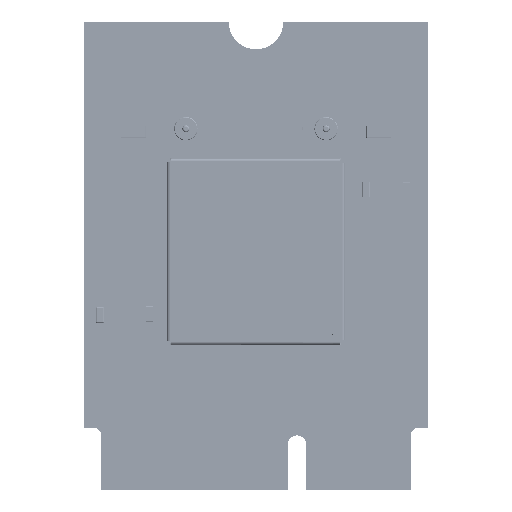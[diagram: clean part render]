
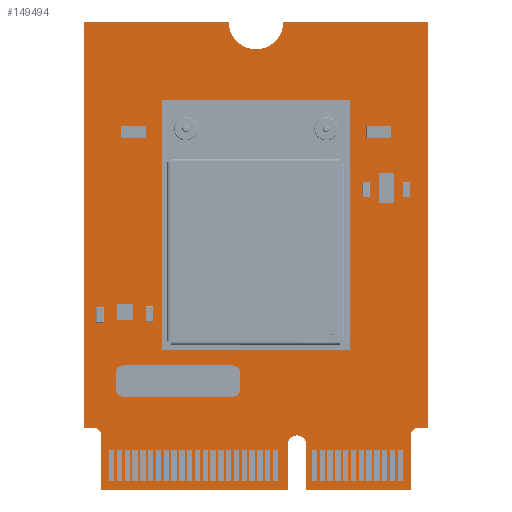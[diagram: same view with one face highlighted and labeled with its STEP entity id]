
A CAD part, top view. The second image highlights one B-rep face of the part: STEP entity #149494.
In plain terms, the highlighted planar face has unit normal (0, 0, 1).
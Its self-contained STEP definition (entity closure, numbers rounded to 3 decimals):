
#2253 = ORIENTED_EDGE ( 'NONE', *, *, #456660, .F. ) ;
#3137 = VECTOR ( 'NONE', #45021, 1000. ) ;
#10824 = DIRECTION ( 'NONE',  ( 0., 0., 1. ) ) ;
#11534 = AXIS2_PLACEMENT_3D ( 'NONE', #647484, #326962, #592351 ) ;
#11606 = CARTESIAN_POINT ( 'NONE',  ( 2.026, -16.982, 0. ) ) ;
#14611 = ORIENTED_EDGE ( 'NONE', *, *, #371616, .F. ) ;
#26696 = CARTESIAN_POINT ( 'NONE',  ( 2.026, -14.082, 0. ) ) ;
#29396 = CARTESIAN_POINT ( 'NONE',  ( 0.001, 13.017, 0. ) ) ;
#31297 = VECTOR ( 'NONE', #657442, 1000. ) ;
#45021 = DIRECTION ( 'NONE',  ( -1., 0., 0. ) ) ;
#46559 = ORIENTED_EDGE ( 'NONE', *, *, #635127, .F. ) ;
#47543 = CARTESIAN_POINT ( 'NONE',  ( -9.925, -13.482, 0. ) ) ;
#53276 = DIRECTION ( 'NONE',  ( 1., 0., 0. ) ) ;
#55625 = VECTOR ( 'NONE', #192534, 1000. ) ;
#56593 = DIRECTION ( 'NONE',  ( -1., 0.001, 0. ) ) ;
#59628 = VECTOR ( 'NONE', #448441, 1000. ) ;
#59637 = DIRECTION ( 'NONE',  ( 0., -1., 0. ) ) ;
#59782 = DIRECTION ( 'NONE',  ( 0., 1., 0. ) ) ;
#61423 = ORIENTED_EDGE ( 'NONE', *, *, #170721, .F. ) ;
#69673 = CARTESIAN_POINT ( 'NONE',  ( -9.925, -16.982, 0. ) ) ;
#73044 = LINE ( 'NONE', #69673, #59628 ) ;
#78320 = DIRECTION ( 'NONE',  ( 0., 0., -1. ) ) ;
#78956 = CARTESIAN_POINT ( 'NONE',  ( 9.925, -13.482, 0. ) ) ;
#91531 = CARTESIAN_POINT ( 'NONE',  ( -9.925, -16.982, 0. ) ) ;
#91885 = VERTEX_POINT ( 'NONE', #96214 ) ;
#96214 = CARTESIAN_POINT ( 'NONE',  ( 9.925, -16.982, 0. ) ) ;
#102514 = VERTEX_POINT ( 'NONE', #225459 ) ;
#105026 = DIRECTION ( 'NONE',  ( 0., 0., 1. ) ) ;
#116232 = DIRECTION ( 'NONE',  ( -1., 0., 0. ) ) ;
#117134 = AXIS2_PLACEMENT_3D ( 'NONE', #29396, #105026, #56593 ) ;
#122032 = VERTEX_POINT ( 'NONE', #47543 ) ;
#122594 = VERTEX_POINT ( 'NONE', #544854 ) ;
#134583 = DIRECTION ( 'NONE',  ( -1., 0., 0. ) ) ;
#145250 = EDGE_CURVE ( 'NONE', #184876, #491569, #290041, .T. ) ;
#148529 = CARTESIAN_POINT ( 'NONE',  ( 1.751, 13.018, 0. ) ) ;
#149494 = ADVANCED_FACE ( 'NONE', ( #278333 ), #384969, .F. ) ;
#153191 = CARTESIAN_POINT ( 'NONE',  ( 2.026, -14.082, 0. ) ) ;
#156328 = CARTESIAN_POINT ( 'NONE',  ( 10.999, 13.018, 0. ) ) ;
#157785 = VECTOR ( 'NONE', #242434, 1000. ) ;
#163069 = LINE ( 'NONE', #156328, #284534 ) ;
#170721 = EDGE_CURVE ( 'NONE', #555314, #444026, #189866, .T. ) ;
#181886 = EDGE_CURVE ( 'NONE', #431238, #184876, #163069, .T. ) ;
#184876 = VERTEX_POINT ( 'NONE', #443761 ) ;
#189866 = LINE ( 'NONE', #399943, #452030 ) ;
#190685 = CARTESIAN_POINT ( 'NONE',  ( -10.999, -12.982, 0. ) ) ;
#191933 = AXIS2_PLACEMENT_3D ( 'NONE', #340223, #395241, #347008 ) ;
#192534 = DIRECTION ( 'NONE',  ( 0., -1., 0. ) ) ;
#203534 = CARTESIAN_POINT ( 'NONE',  ( 10.999, -12.982, 0. ) ) ;
#215190 = CARTESIAN_POINT ( 'NONE',  ( 10.999, 13.018, 0. ) ) ;
#223192 = DIRECTION ( 'NONE',  ( 0., -1., 0. ) ) ;
#223389 = EDGE_CURVE ( 'NONE', #627448, #315873, #289673, .T. ) ;
#225459 = CARTESIAN_POINT ( 'NONE',  ( -1.749, 13.018, 0. ) ) ;
#236090 = CARTESIAN_POINT ( 'NONE',  ( 3.225, -14.082, 0. ) ) ;
#242434 = DIRECTION ( 'NONE',  ( 0., 1., 0. ) ) ;
#246494 = VERTEX_POINT ( 'NONE', #153191 ) ;
#254455 = VECTOR ( 'NONE', #134583, 1000. ) ;
#264558 = VECTOR ( 'NONE', #53276, 1000. ) ;
#266467 = ORIENTED_EDGE ( 'NONE', *, *, #657923, .F. ) ;
#272732 = CARTESIAN_POINT ( 'NONE',  ( 10.425, -13.482, 0. ) ) ;
#278333 = FACE_OUTER_BOUND ( 'NONE', #540475, .T. ) ;
#278865 = VERTEX_POINT ( 'NONE', #295742 ) ;
#282957 = VERTEX_POINT ( 'NONE', #442285 ) ;
#283496 = ORIENTED_EDGE ( 'NONE', *, *, #223389, .F. ) ;
#284534 = VECTOR ( 'NONE', #59637, 1000. ) ;
#289673 = LINE ( 'NONE', #444695, #254455 ) ;
#290041 = LINE ( 'NONE', #203534, #3137 ) ;
#293169 = CIRCLE ( 'NONE', #117134, 1.75 ) ;
#295742 = CARTESIAN_POINT ( 'NONE',  ( 1.751, 13.018, 0. ) ) ;
#296174 = VERTEX_POINT ( 'NONE', #561234 ) ;
#309531 = EDGE_CURVE ( 'NONE', #282957, #91885, #502750, .T. ) ;
#315873 = VERTEX_POINT ( 'NONE', #91531 ) ;
#326962 = DIRECTION ( 'NONE',  ( 0., 0., 1. ) ) ;
#336843 = CARTESIAN_POINT ( 'NONE',  ( -10.999, -12.982, 0. ) ) ;
#340223 = CARTESIAN_POINT ( 'NONE',  ( 2.625, -14.082, 0. ) ) ;
#347008 = DIRECTION ( 'NONE',  ( 1., 0.001, 0. ) ) ;
#347587 = EDGE_CURVE ( 'NONE', #122594, #102514, #583941, .T. ) ;
#351166 = EDGE_CURVE ( 'NONE', #102514, #278865, #293169, .T. ) ;
#356601 = ORIENTED_EDGE ( 'NONE', *, *, #145250, .F. ) ;
#362338 = EDGE_CURVE ( 'NONE', #246494, #627448, #453815, .T. ) ;
#365432 = VECTOR ( 'NONE', #59782, 1000. ) ;
#371616 = EDGE_CURVE ( 'NONE', #278865, #431238, #620582, .T. ) ;
#384969 = PLANE ( 'NONE',  #522952 ) ;
#385166 = ORIENTED_EDGE ( 'NONE', *, *, #362338, .F. ) ;
#385820 = CIRCLE ( 'NONE', #11534, 0.5 ) ;
#394015 = CARTESIAN_POINT ( 'NONE',  ( 10.425, -12.982, 0. ) ) ;
#395241 = DIRECTION ( 'NONE',  ( 0., 0., 1. ) ) ;
#399943 = CARTESIAN_POINT ( 'NONE',  ( -10.425, -12.982, 0. ) ) ;
#404129 = LINE ( 'NONE', #190685, #157785 ) ;
#413288 = VERTEX_POINT ( 'NONE', #236090 ) ;
#413544 = EDGE_CURVE ( 'NONE', #296174, #413288, #431742, .T. ) ;
#414427 = AXIS2_PLACEMENT_3D ( 'NONE', #272732, #10824, #482936 ) ;
#424773 = ORIENTED_EDGE ( 'NONE', *, *, #351166, .F. ) ;
#431238 = VERTEX_POINT ( 'NONE', #215190 ) ;
#431742 = LINE ( 'NONE', #486905, #365432 ) ;
#440004 = ORIENTED_EDGE ( 'NONE', *, *, #181886, .F. ) ;
#440707 = ORIENTED_EDGE ( 'NONE', *, *, #347587, .F. ) ;
#442285 = CARTESIAN_POINT ( 'NONE',  ( 9.925, -13.482, 0. ) ) ;
#442685 = ORIENTED_EDGE ( 'NONE', *, *, #448974, .F. ) ;
#443761 = CARTESIAN_POINT ( 'NONE',  ( 10.999, -12.982, 0. ) ) ;
#444026 = VERTEX_POINT ( 'NONE', #336843 ) ;
#444695 = CARTESIAN_POINT ( 'NONE',  ( 2.026, -16.982, 0. ) ) ;
#448441 = DIRECTION ( 'NONE',  ( 0., 1., 0. ) ) ;
#448974 = EDGE_CURVE ( 'NONE', #413288, #246494, #632268, .T. ) ;
#452030 = VECTOR ( 'NONE', #665518, 1000. ) ;
#453815 = LINE ( 'NONE', #26696, #31297 ) ;
#456660 = EDGE_CURVE ( 'NONE', #444026, #122594, #404129, .T. ) ;
#458237 = CIRCLE ( 'NONE', #414427, 0.5 ) ;
#482936 = DIRECTION ( 'NONE',  ( 0., 1., 0. ) ) ;
#486905 = CARTESIAN_POINT ( 'NONE',  ( 3.225, -16.982, 0. ) ) ;
#491569 = VERTEX_POINT ( 'NONE', #394015 ) ;
#500933 = ORIENTED_EDGE ( 'NONE', *, *, #565455, .F. ) ;
#502750 = LINE ( 'NONE', #78956, #55625 ) ;
#522952 = AXIS2_PLACEMENT_3D ( 'NONE', #595416, #78320, #223192 ) ;
#526593 = ORIENTED_EDGE ( 'NONE', *, *, #413544, .F. ) ;
#530948 = ORIENTED_EDGE ( 'NONE', *, *, #309531, .F. ) ;
#540475 = EDGE_LOOP ( 'NONE', ( #283496, #385166, #442685, #526593, #570711, #530948, #500933, #356601, #440004, #14611, #424773, #440707, #2253, #61423, #46559, #266467 ) ) ;
#544854 = CARTESIAN_POINT ( 'NONE',  ( -10.999, 13.018, 0. ) ) ;
#555314 = VERTEX_POINT ( 'NONE', #638845 ) ;
#561234 = CARTESIAN_POINT ( 'NONE',  ( 3.225, -16.982, 0. ) ) ;
#565455 = EDGE_CURVE ( 'NONE', #491569, #282957, #458237, .T. ) ;
#570711 = ORIENTED_EDGE ( 'NONE', *, *, #571573, .F. ) ;
#571573 = EDGE_CURVE ( 'NONE', #91885, #296174, #584956, .T. ) ;
#575761 = DIRECTION ( 'NONE',  ( 1., 0., 0. ) ) ;
#577169 = CARTESIAN_POINT ( 'NONE',  ( -10.999, 13.018, 0. ) ) ;
#583941 = LINE ( 'NONE', #577169, #264558 ) ;
#584956 = LINE ( 'NONE', #646870, #664907 ) ;
#592351 = DIRECTION ( 'NONE',  ( 1., 0., 0. ) ) ;
#595416 = CARTESIAN_POINT ( 'NONE',  ( 0.15, -2.405, 0. ) ) ;
#620582 = LINE ( 'NONE', #148529, #680330 ) ;
#627448 = VERTEX_POINT ( 'NONE', #11606 ) ;
#632268 = CIRCLE ( 'NONE', #191933, 0.6 ) ;
#635127 = EDGE_CURVE ( 'NONE', #122032, #555314, #385820, .T. ) ;
#638845 = CARTESIAN_POINT ( 'NONE',  ( -10.425, -12.982, 0. ) ) ;
#646870 = CARTESIAN_POINT ( 'NONE',  ( 9.925, -16.982, 0. ) ) ;
#647484 = CARTESIAN_POINT ( 'NONE',  ( -10.425, -13.482, 0. ) ) ;
#657442 = DIRECTION ( 'NONE',  ( 0., -1., 0. ) ) ;
#657923 = EDGE_CURVE ( 'NONE', #315873, #122032, #73044, .T. ) ;
#664907 = VECTOR ( 'NONE', #116232, 1000. ) ;
#665518 = DIRECTION ( 'NONE',  ( -1., 0., 0. ) ) ;
#680330 = VECTOR ( 'NONE', #575761, 1000. ) ;
